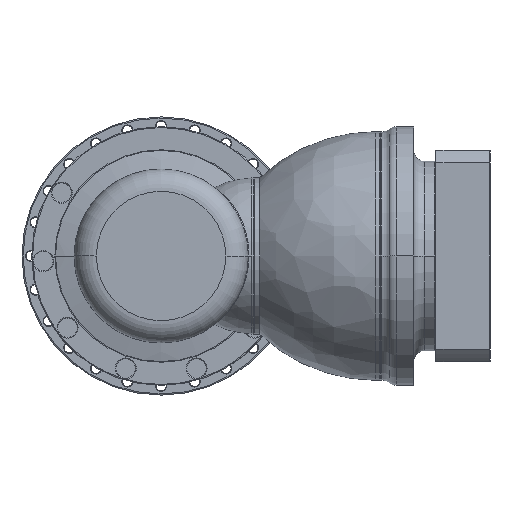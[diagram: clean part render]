
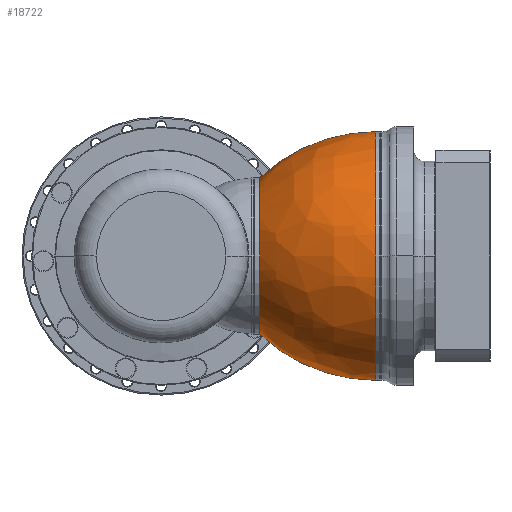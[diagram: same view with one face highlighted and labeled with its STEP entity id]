
A CAD part, left-side view. The second image highlights one B-rep face of the part: STEP entity #18722.
In plain terms, the highlighted free-form (B-spline) face has degree [3, 3] with [7, 4] control points.
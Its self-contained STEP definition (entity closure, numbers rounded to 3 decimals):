
#18428=CARTESIAN_POINT('',(-4.,0.,0.));
#18429=DIRECTION('',(1.,0.,0.));
#18430=DIRECTION('',(0.,-1.,0.));
#18431=AXIS2_PLACEMENT_3D('',#18428,#18429,#18430);
#18452=CARTESIAN_POINT('',(-4.,-39.563,0.));
#18453=DIRECTION('',(0.,0.,-1.));
#18454=DIRECTION('',(-0.687,0.726,0.));
#18455=AXIS2_PLACEMENT_3D('',#18452,#18453,#18454);
#18457=CARTESIAN_POINT('',(-4.,39.563,0.));
#18458=DIRECTION('',(0.,0.,1.));
#18459=DIRECTION('',(-0.687,-0.726,0.));
#18460=AXIS2_PLACEMENT_3D('',#18457,#18458,#18459);
#18472=CARTESIAN_POINT('',(-107.856,0.,0.));
#18473=DIRECTION('',(-1.,0.,0.));
#18474=DIRECTION('',(0.,1.,0.));
#18475=AXIS2_PLACEMENT_3D('',#18472,#18473,#18474);
#18523=CARTESIAN_POINT('',(-4.,111.5,0.));
#18524=CARTESIAN_POINT('',(-4.,-111.5,0.));
#18525=VERTEX_POINT('',#18523);
#18526=VERTEX_POINT('',#18524);
#18527=CARTESIAN_POINT('',(-107.856,70.137,0.));
#18528=CARTESIAN_POINT('',(-107.856,-70.137,0.));
#18529=VERTEX_POINT('',#18527);
#18530=VERTEX_POINT('',#18528);
#18687=CARTESIAN_POINT('',(-1.71,111.263,
7.));
#18688=CARTESIAN_POINT('',(-42.466,111.879,
7.039));
#18689=CARTESIAN_POINT('',(-80.335,96.827,
6.092));
#18690=CARTESIAN_POINT('',(-109.507,68.415,
4.304));
#18691=CARTESIAN_POINT('',(-1.71,115.57,
-61.471));
#18692=CARTESIAN_POINT('',(-42.466,116.211,
-61.812));
#18693=CARTESIAN_POINT('',(-80.335,100.576,
-53.495));
#18694=CARTESIAN_POINT('',(-109.507,71.063,
-37.798));
#18695=CARTESIAN_POINT('',(-1.71,68.606,
-111.483));
#18696=CARTESIAN_POINT('',(-42.466,68.987,
-112.101));
#18697=CARTESIAN_POINT('',(-80.335,59.705,
-97.019));
#18698=CARTESIAN_POINT('',(-109.507,42.185,
-68.55));
#18699=CARTESIAN_POINT('',(-1.71,0.,
-111.483));
#18700=CARTESIAN_POINT('',(-42.466,0.,
-112.101));
#18701=CARTESIAN_POINT('',(-80.335,0.,-97.019));
#18702=CARTESIAN_POINT('',(-109.507,0.,-68.55));
#18703=CARTESIAN_POINT('',(-1.71,-68.606,
-111.483));
#18704=CARTESIAN_POINT('',(-42.466,-68.987,
-112.101));
#18705=CARTESIAN_POINT('',(-80.335,-59.705,
-97.019));
#18706=CARTESIAN_POINT('',(-109.507,-42.185,
-68.55));
#18707=CARTESIAN_POINT('',(-1.71,-115.57,
-61.471));
#18708=CARTESIAN_POINT('',(-42.466,-116.211,
-61.812));
#18709=CARTESIAN_POINT('',(-80.335,-100.576,
-53.495));
#18710=CARTESIAN_POINT('',(-109.507,-71.063,
-37.798));
#18711=CARTESIAN_POINT('',(-1.71,-111.263,
7.));
#18712=CARTESIAN_POINT('',(-42.466,-111.879,
7.039));
#18713=CARTESIAN_POINT('',(-80.335,-96.827,
6.092));
#18714=CARTESIAN_POINT('',(-109.507,-68.415,
4.304));
#18715=(BOUNDED_SURFACE()B_SPLINE_SURFACE(3,3,((#18687,#18688,#18689,#18690),(
#18691,#18692,#18693,#18694),(#18695,#18696,#18697,#18698),(#18699,#18700,
#18701,#18702),(#18703,#18704,#18705,#18706),(#18707,#18708,#18709,#18710),(
#18711,#18712,#18713,#18714)),.UNSPECIFIED.,.F.,.F.,.F.)B_SPLINE_SURFACE_WITH_KNOTS((4,3,4),(4,4),(0.,1.,2.),(0.,1.),.UNSPECIFIED.)GEOMETRIC_REPRESENTATION_ITEM()RATIONAL_B_SPLINE_SURFACE(((1.235,1.171,
1.171,1.235),(0.975,0.925,
0.925,0.975),(0.975,0.925,
0.925,0.975),(1.235,1.171,
1.171,1.235),(0.975,0.925,
0.925,0.975),(0.975,0.925,
0.925,0.975),(1.235,1.171,
1.171,1.235)))REPRESENTATION_ITEM('')SURFACE());
#18716=ORIENTED_EDGE('',*,*,#18678,.T.);
#18717=ORIENTED_EDGE('',*,*,#18653,.T.);
#18718=ORIENTED_EDGE('',*,*,#18599,.T.);
#18719=ORIENTED_EDGE('',*,*,#18650,.F.);
#18720=EDGE_LOOP('',(#18716,#18717,#18718,#18719));
#18721=FACE_OUTER_BOUND('',#18720,.F.);
#18722=ADVANCED_FACE('',(#18721),#18715,.T.);
#18432=CIRCLE('',#18431,111.5);
#18456=CIRCLE('',#18455,151.063);
#18461=CIRCLE('',#18460,151.063);
#18476=CIRCLE('',#18475,70.137);
#18599=EDGE_CURVE('',#18526,#18525,#18432,.T.);
#18650=EDGE_CURVE('',#18529,#18525,#18456,.T.);
#18653=EDGE_CURVE('',#18530,#18526,#18461,.T.);
#18678=EDGE_CURVE('',#18529,#18530,#18476,.T.);
